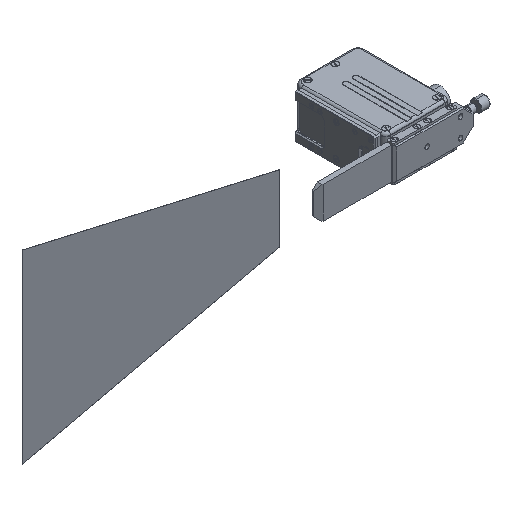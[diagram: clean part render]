
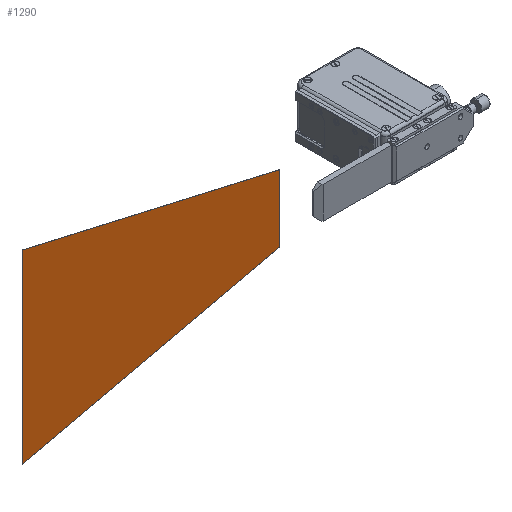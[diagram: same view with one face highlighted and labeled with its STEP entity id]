
A CAD part, isometric view. The second image highlights one B-rep face of the part: STEP entity #1290.
In plain terms, the highlighted planar face has unit normal (0, -1, 0).
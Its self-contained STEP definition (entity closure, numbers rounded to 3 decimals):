
#36 = CARTESIAN_POINT ( 'NONE',  ( -71.394, -55.365, -14.909 ) ) ;
#250 = LINE ( 'NONE', #2500, #6657 ) ;
#1290 = ADVANCED_FACE ( 'NONE', ( #5423 ), #28335, .T. ) ;
#1503 = VERTEX_POINT ( 'NONE', #26744 ) ;
#2500 = CARTESIAN_POINT ( 'NONE',  ( -71.394, -55.365, -14.909 ) ) ;
#3248 = ORIENTED_EDGE ( 'NONE', *, *, #4832, .F. ) ;
#4182 = VERTEX_POINT ( 'NONE', #36 ) ;
#4266 = VECTOR ( 'NONE', #19095, 1000. ) ;
#4832 = EDGE_CURVE ( 'NONE', #14017, #4182, #250, .T. ) ;
#5423 = FACE_OUTER_BOUND ( 'NONE', #30138, .T. ) ;
#6657 = VECTOR ( 'NONE', #18312, 1000. ) ;
#6790 = ORIENTED_EDGE ( 'NONE', *, *, #8081, .F. ) ;
#8081 = EDGE_CURVE ( 'NONE', #8403, #14017, #25923, .T. ) ;
#8403 = VERTEX_POINT ( 'NONE', #18267 ) ;
#9873 = EDGE_CURVE ( 'NONE', #1503, #8403, #28116, .T. ) ;
#10740 = DIRECTION ( 'NONE',  ( 0., 0., 1. ) ) ;
#14017 = VERTEX_POINT ( 'NONE', #32045 ) ;
#15636 = CARTESIAN_POINT ( 'NONE',  ( -321.394, -55.365, 107.591 ) ) ;
#15895 = CARTESIAN_POINT ( 'NONE',  ( -72.968, -55.365, 17.591 ) ) ;
#16619 = CARTESIAN_POINT ( 'NONE',  ( -71.394, -55.365, 50.091 ) ) ;
#18267 = CARTESIAN_POINT ( 'NONE',  ( -321.394, -55.365, 107.591 ) ) ;
#18312 = DIRECTION ( 'NONE',  ( 0., 0., -1. ) ) ;
#18608 = LINE ( 'NONE', #23849, #30989 ) ;
#18819 = DIRECTION ( 'NONE',  ( -0.975, 0., -0.224 ) ) ;
#19095 = DIRECTION ( 'NONE',  ( 0.975, 0., -0.224 ) ) ;
#19737 = VECTOR ( 'NONE', #20802, 1000. ) ;
#20802 = DIRECTION ( 'NONE',  ( 0., 0., 1. ) ) ;
#23849 = CARTESIAN_POINT ( 'NONE',  ( -321.394, -55.365, -72.409 ) ) ;
#25871 = AXIS2_PLACEMENT_3D ( 'NONE', #15895, #28772, #10740 ) ;
#25923 = LINE ( 'NONE', #16619, #4266 ) ;
#26744 = CARTESIAN_POINT ( 'NONE',  ( -321.394, -55.365, -72.409 ) ) ;
#28116 = LINE ( 'NONE', #15636, #19737 ) ;
#28335 = PLANE ( 'NONE',  #25871 ) ;
#28559 = EDGE_CURVE ( 'NONE', #4182, #1503, #18608, .T. ) ;
#28772 = DIRECTION ( 'NONE',  ( 0., -1., 0. ) ) ;
#28847 = ORIENTED_EDGE ( 'NONE', *, *, #28559, .F. ) ;
#29112 = ORIENTED_EDGE ( 'NONE', *, *, #9873, .F. ) ;
#30138 = EDGE_LOOP ( 'NONE', ( #6790, #29112, #28847, #3248 ) ) ;
#30989 = VECTOR ( 'NONE', #18819, 1000. ) ;
#32045 = CARTESIAN_POINT ( 'NONE',  ( -71.394, -55.365, 50.091 ) ) ;
